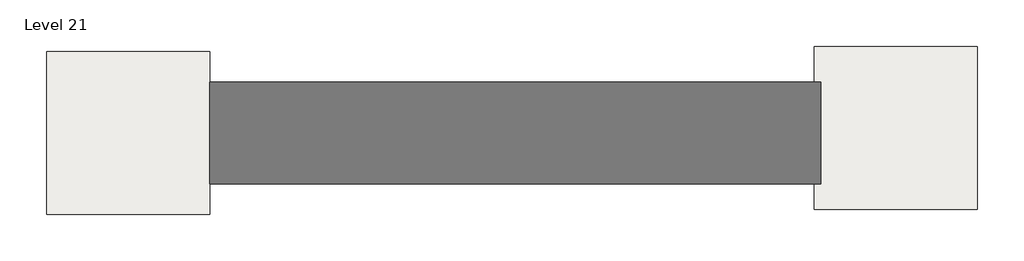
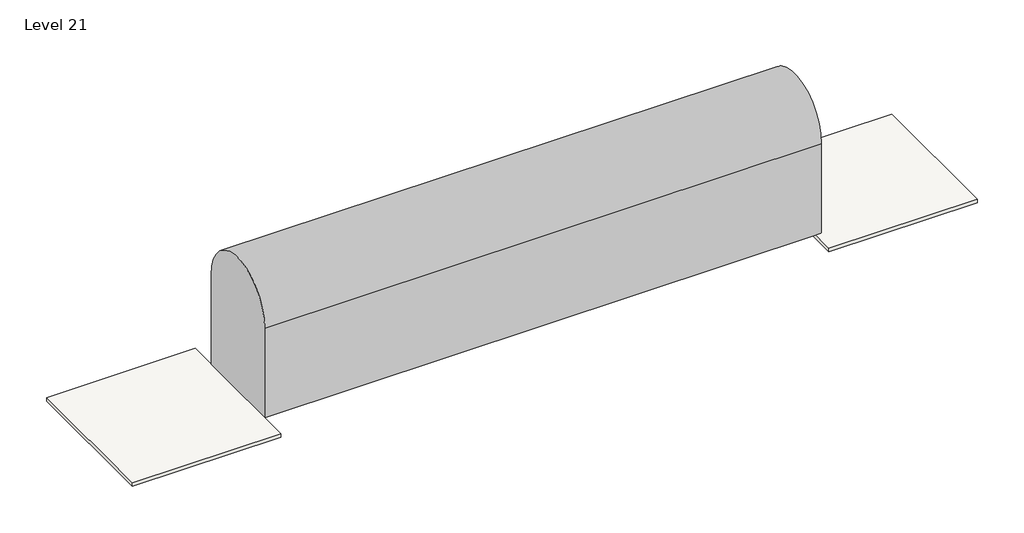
# One storey: 2 slabs, 1 proxy.
"""IFC4 building model written with IfcOpenShell, lengths in millimetres."""

from ifc_helpers import new_model, si_unit, point, frame, frame_2d, origin, place, context, project, spatial, polyline, circle_curve, trimmed, segment, composite_curve, outline, extrude, element, save

model = new_model("IFC4")

# Units and contexts
model_context = context("Model", 3, world=origin())
ifc_project = project(units=[si_unit("LENGTHUNIT", "METRE", prefix="MILLI")], contexts=[model_context])

# Site, building, storey
site = spatial("IfcSite", under=ifc_project)
building = spatial("IfcBuilding", under=site)
storey = spatial("IfcBuildingStorey", under=building, Name="Level 21", Elevation=60960.0)

# Proxy
placement = place(None, origin())
element("IfcBuildingElementProxy", 1, Name="Mass 3 : Mass 2", ObjectType="Mass 3 : Mass 2", at=placement, inside=storey, context=model_context, shape_type="SweptSolid", body=[
    extrude(outline(composite_curve([segment(polyline([(5687.9495511, 60960.0), (-1932.0504489, 60960.0), (-1932.0504489, 68732.4)]), True, "CONTINUOUS"), segment(trimmed(circle_curve(frame_2d((1877.9495511, 68732.4)), 3810.0), [point((-1932.0504489, 68732.4))], [point((5687.9495511, 68732.4))], False, "CARTESIAN"), True, "CONTINUOUS"), segment(polyline([(5687.9495511, 68732.4), (5687.9495511, 60960.0)]), True, "CONTINUOUS")], self_intersect=False)), frame((-7123.4161695, 0.0, 0.0), z_axis=(1.0, 0.0, 0.0), x_axis=(0.0, 1.0, 0.0)), (0.0, 0.0, 1.0), 45720.0),
])

# Slabs
element("IfcSlab", 2, ObjectType="Generic - 12\"", at=placement, inside=storey, context=model_context, shape_type="SweptSolid", body=[
    extrude(outline(polyline([(-19315.4161695, 7973.9495511), (-7123.4161695, 7973.9495511), (-7123.4161695, -4218.0504489), (-19315.4161695, -4218.0504489), (-19315.4161695, 7973.9495511)])), frame((0.0, 0.0, 60655.2), z_axis=(0.0, 0.0, 1.0), x_axis=(1.0, 0.0, 0.0)), (0.0, 0.0, 1.0), 304.8),
])
element("IfcSlab", 3, ObjectType="Generic - 12\"", at=placement, inside=storey, context=model_context, shape_type="SweptSolid", body=[
    extrude(outline(polyline([(38118.2903978, 8351.0904402), (50310.2903978, 8351.0904402), (50310.2903978, -3840.9095598), (38118.2903978, -3840.9095598), (38118.2903978, 8351.0904402)])), frame((0.0, 0.0, 60655.2), z_axis=(0.0, 0.0, 1.0), x_axis=(1.0, 0.0, 0.0)), (0.0, 0.0, 1.0), 304.8),
])

save(model, "model.ifc")
